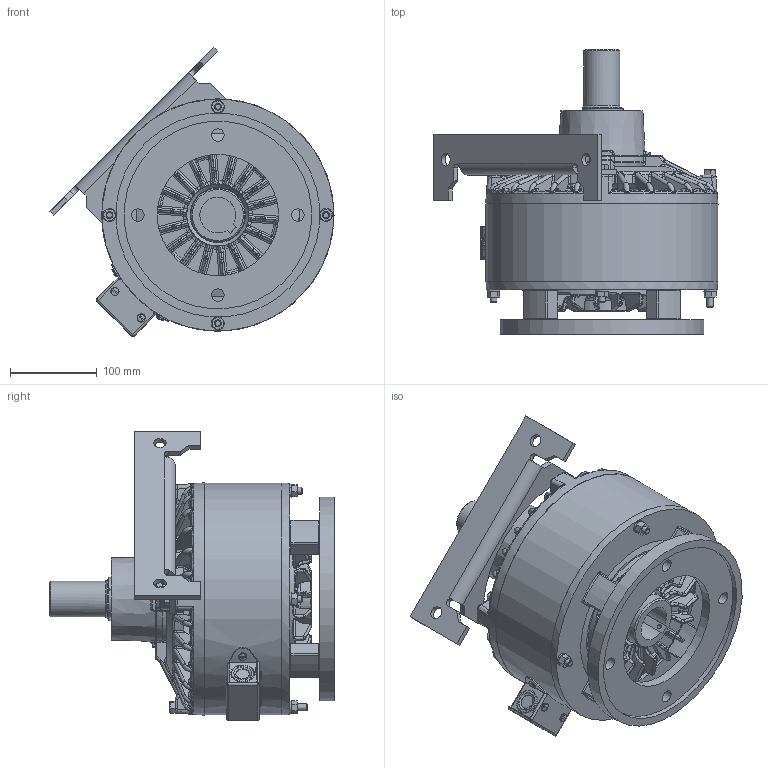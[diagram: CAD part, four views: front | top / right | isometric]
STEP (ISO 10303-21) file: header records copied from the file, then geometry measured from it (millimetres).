
FILE_DESCRIPTION(/* description */ ('STEP AP214'),/* implementation_level */ '2;1');
FILE_NAME(/* name */ '100MC90F20_stp.step',/* time_stamp */ '2026-05-13T13:56:15-05:00',/* author */ (''),/* organization */ (''),/* preprocessor_version */ 'ST-DEVELOPER v20.1',/* originating_system */ 'Autodesk Translation Framework v15.8.0.0',/* authorisation */ '');
FILE_SCHEMA (('AUTOMOTIVE_DESIGN { 1 0 10303 214 3 1 1 }'));
Products named in the file (1): 100MC90F20_asm_stp
Bounding box: 326.81 x 327.83 x 333.06 mm (x, y, z)
Volume: 5402437.1 mm3; surface area: 950972.5 mm2
Topology: 6 solids, 12 shells, 3350 faces, 8339 edges, 4880 vertices
Faces by surface type: bspline 1094, cylinder 880, plane 750, torus 405, cone 181, sphere 40
Full cylindrical faces by diameter (mm): 3.795 x4, 4.039 x4, 5.105 x2, 6.35 x4, 7.938 x8, 9.474 x4, 9.525 x7, 12.7 x1, 14.275 x2, 14.287 x4, 17.475 x1, 22.225 x3, 31.75 x1, 41.237 x1, 42.469 x2, 43.663 x1, 45.009 x6, 51 x4, 61.976 x1, 63.5 x1, 66.9 x2, 69 x4, 71.425 x1, 75 x1, 75.006 x1, 82.601 x1, 117.475 x1, 132.588 x2, 139.04 x1, 139.7 x2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
Entity records: 147101 total; most frequent: CARTESIAN_POINT 74507, ORIENTED_EDGE 16468, DIRECTION 13996, EDGE_CURVE 8234, AXIS2_PLACEMENT_3D 5821, VERTEX_POINT 4888, EDGE_LOOP 3486, CIRCLE 3408
